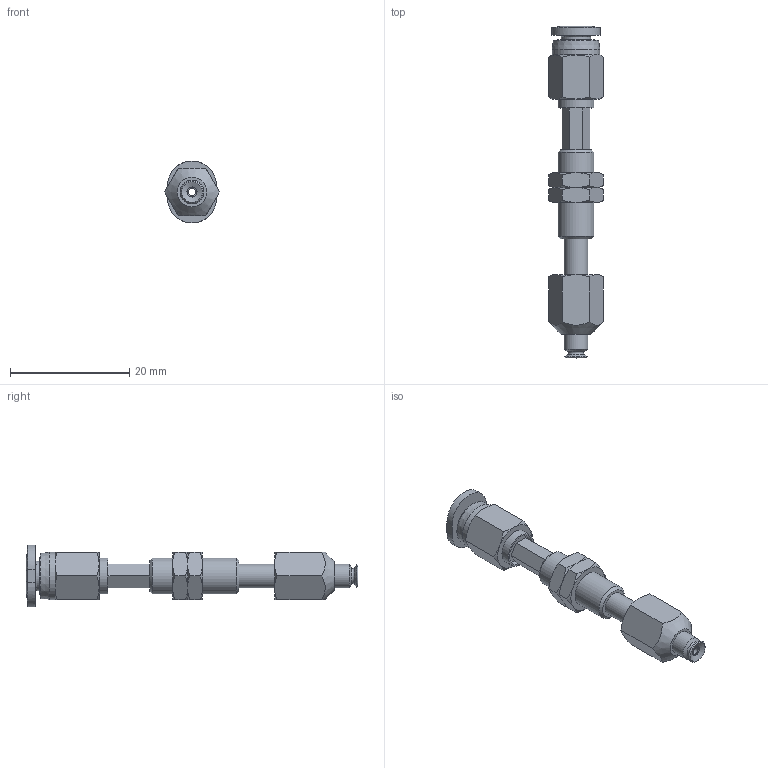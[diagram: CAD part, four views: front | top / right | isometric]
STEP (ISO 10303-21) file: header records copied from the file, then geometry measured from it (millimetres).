
FILE_DESCRIPTION(('STEP AP203'),'1');
FILE_NAME('-O.stp','2025-08-27T05:29:03',(' '),(' '),'Spatial InterOp 3D',' ',' ');
FILE_SCHEMA(('CONFIG_CONTROL_DESIGN'));
Length unit declared in the file: millimetre
Products named in the file (7): BNABPFTS-3.5A-6-※-O; ADAPTER; NAPFTS-2A-6-MBODY; Nut-3.5A-6-s; NAPFTS-3.5A-6-FBODY; BPFG-3.5A-※; PC-C_04-M3
Assembly tree (7 placements, depth 2):
  BNABPFTS-3.5A-6-※-O
    ADAPTER
    NAPFTS-2A-6-MBODY
    Nut-3.5A-6-s  x2
    NAPFTS-3.5A-6-FBODY
    BPFG-3.5A-※
    PC-C_04-M3
Bounding box: 9.24 x 55.77 x 10.4 mm (x, y, z)
Volume: 1259.4 mm3; surface area: 2606.2 mm2
Topology: 6 solids, 8 shells, 161 faces, 332 edges, 198 vertices
Faces by surface type: plane 63, cone 58, cylinder 23, torus 9, bspline 5, revolution 3
Full cylindrical faces by diameter (mm): 1.2 x3, 2 x2, 2.459 x1, 2.5 x2, 3 x3, 4 x3, 4.9 x1, 5.188 x2, 6 x2, 6.1 x1, 8 x1
Entity records: 4061 total; most frequent: CARTESIAN_POINT 1125, DIRECTION 543, ORIENTED_EDGE 456, AXIS2_PLACEMENT_3D 243, EDGE_CURVE 229, EDGE_LOOP 206, VERTEX_POINT 161, FACE_OUTER_BOUND 108
